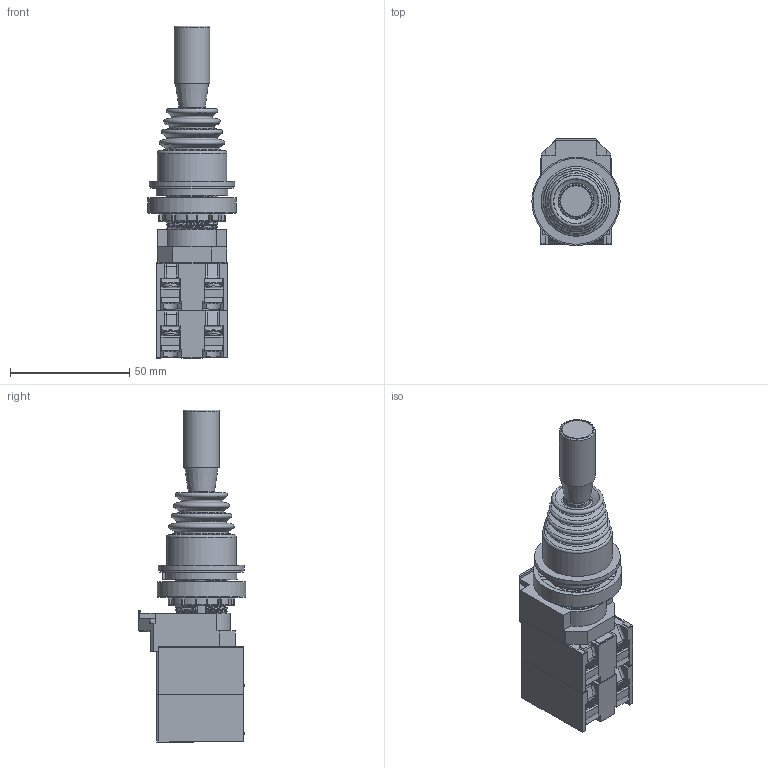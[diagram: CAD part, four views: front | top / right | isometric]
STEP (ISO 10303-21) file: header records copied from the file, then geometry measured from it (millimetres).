
FILE_DESCRIPTION(('Manipuladora sem Retorno Redondo 30'),'2;1');
FILE_NAME('E:\WorkFolder\Bibl\3DWeb\kp_c3_c3mf$_step.stp','2022-09-26T10:15:31',('DIE'),('KAP Componentes Eletricos Ltda.'),'Autodesk Inventor 2011','Autodesk Inventor 2011','Direitos reservados. Proibido reproducao, cedencia ou revelacao de conteudo a terceiros, salvo com autorizacao.');
FILE_SCHEMA(('AUTOMOTIVE_DESIGN { 1 0 10303 214 1 1 1 1 }'));
Length unit declared in the file: millimetre
Products named in the file (1): Part4
Bounding box: 37 x 44.9 x 139 mm (x, y, z)
Volume: 77901.7 mm3; surface area: 30167.4 mm2
Topology: 1 solids, 4 shells, 2515 faces, 7030 edges, 4506 vertices
Faces by surface type: plane 1665, cylinder 316, bspline 280, torus 121, sphere 68, cone 65
Full cylindrical faces by diameter (mm): 3.97 x1, 5.8 x2, 6 x3, 9 x1, 10 x1, 11.548 x1, 13.2 x1, 13.5 x1, 15 x1, 20 x1, 28 x1, 29.2 x1, 33 x1, 35 x1, 36 x1, 37 x1
Entity records: 88783 total; most frequent: CARTESIAN_POINT 25996, ORIENTED_EDGE 13736, DIRECTION 12053, EDGE_CURVE 6868, VECTOR 4689, LINE 4689, VERTEX_POINT 4489, AXIS2_PLACEMENT_3D 3682
